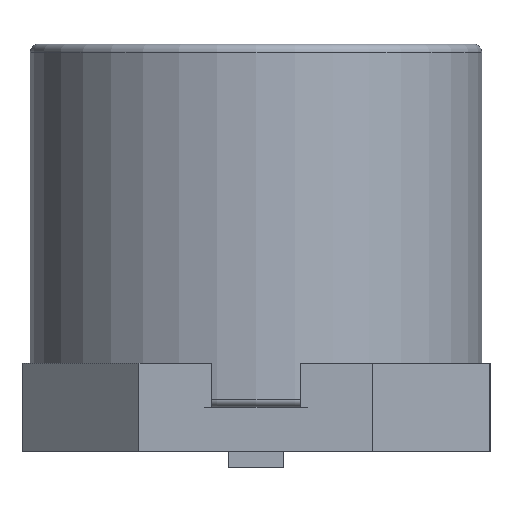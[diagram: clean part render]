
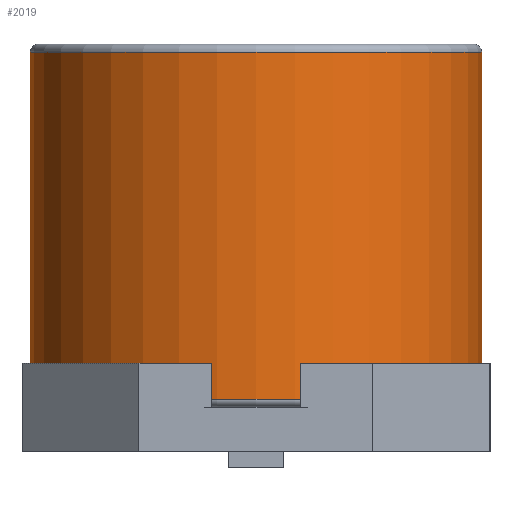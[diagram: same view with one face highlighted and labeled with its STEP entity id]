
A CAD part, left-side view. The second image highlights one B-rep face of the part: STEP entity #2019.
In plain terms, the highlighted cylindrical face has radius 4.1 mm (diameter 8.2 mm), a full revolution.
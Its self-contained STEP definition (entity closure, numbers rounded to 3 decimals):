
#2019 = ADVANCED_FACE('',(#2020),#2034,.T.);
#2020 = FACE_BOUND('',#2021,.T.);
#2021 = EDGE_LOOP('',(#2022,#2052,#2079,#2080));
#2022 = ORIENTED_EDGE('',*,*,#2023,.T.);
#2023 = EDGE_CURVE('',#2024,#2026,#2028,.T.);
#2024 = VERTEX_POINT('',#2025);
#2025 = CARTESIAN_POINT('',(4.1,0.,1.25));
#2026 = VERTEX_POINT('',#2027);
#2027 = CARTESIAN_POINT('',(4.1,0.,7.55));
#2028 = SEAM_CURVE('',#2029,(#2033,#2045),.PCURVE_S1.);
#2029 = LINE('',#2030,#2031);
#2030 = CARTESIAN_POINT('',(4.1,0.,1.1));
#2031 = VECTOR('',#2032,1.);
#2032 = DIRECTION('',(0.,0.,1.));
#2033 = PCURVE('',#2034,#2039);
#2034 = CYLINDRICAL_SURFACE('',#2035,4.1);
#2035 = AXIS2_PLACEMENT_3D('',#2036,#2037,#2038);
#2036 = CARTESIAN_POINT('',(0.,0.,1.1));
#2037 = DIRECTION('',(0.,0.,1.));
#2038 = DIRECTION('',(1.,0.,0.));
#2039 = DEFINITIONAL_REPRESENTATION('',(#2040),#2044);
#2040 = LINE('',#2041,#2042);
#2041 = CARTESIAN_POINT('',(6.283,-0.));
#2042 = VECTOR('',#2043,1.);
#2043 = DIRECTION('',(0.,1.));
#2044 = ( GEOMETRIC_REPRESENTATION_CONTEXT(2) 
PARAMETRIC_REPRESENTATION_CONTEXT() REPRESENTATION_CONTEXT('2D SPACE',''
  ) );
#2045 = PCURVE('',#2034,#2046);
#2046 = DEFINITIONAL_REPRESENTATION('',(#2047),#2051);
#2047 = LINE('',#2048,#2049);
#2048 = CARTESIAN_POINT('',(0.,-0.));
#2049 = VECTOR('',#2050,1.);
#2050 = DIRECTION('',(0.,1.));
#2051 = ( GEOMETRIC_REPRESENTATION_CONTEXT(2) 
PARAMETRIC_REPRESENTATION_CONTEXT() REPRESENTATION_CONTEXT('2D SPACE',''
  ) );
#2052 = ORIENTED_EDGE('',*,*,#2053,.F.);
#2053 = EDGE_CURVE('',#2026,#2026,#2054,.T.);
#2054 = SURFACE_CURVE('',#2055,(#2060,#2067),.PCURVE_S1.);
#2055 = CIRCLE('',#2056,4.1);
#2056 = AXIS2_PLACEMENT_3D('',#2057,#2058,#2059);
#2057 = CARTESIAN_POINT('',(0.,0.,7.55));
#2058 = DIRECTION('',(0.,0.,1.));
#2059 = DIRECTION('',(1.,0.,-0.));
#2060 = PCURVE('',#2034,#2061);
#2061 = DEFINITIONAL_REPRESENTATION('',(#2062),#2066);
#2062 = LINE('',#2063,#2064);
#2063 = CARTESIAN_POINT('',(0.,6.45));
#2064 = VECTOR('',#2065,1.);
#2065 = DIRECTION('',(1.,0.));
#2066 = ( GEOMETRIC_REPRESENTATION_CONTEXT(2) 
PARAMETRIC_REPRESENTATION_CONTEXT() REPRESENTATION_CONTEXT('2D SPACE',''
  ) );
#2067 = PCURVE('',#2068,#2073);
#2068 = TOROIDAL_SURFACE('',#2069,3.95,0.15);
#2069 = AXIS2_PLACEMENT_3D('',#2070,#2071,#2072);
#2070 = CARTESIAN_POINT('',(0.,0.,7.55));
#2071 = DIRECTION('',(0.,0.,1.));
#2072 = DIRECTION('',(1.,0.,-0.));
#2073 = DEFINITIONAL_REPRESENTATION('',(#2074),#2078);
#2074 = LINE('',#2075,#2076);
#2075 = CARTESIAN_POINT('',(0.,0.));
#2076 = VECTOR('',#2077,1.);
#2077 = DIRECTION('',(1.,0.));
#2078 = ( GEOMETRIC_REPRESENTATION_CONTEXT(2) 
PARAMETRIC_REPRESENTATION_CONTEXT() REPRESENTATION_CONTEXT('2D SPACE',''
  ) );
#2079 = ORIENTED_EDGE('',*,*,#2023,.F.);
#2080 = ORIENTED_EDGE('',*,*,#2081,.T.);
#2081 = EDGE_CURVE('',#2024,#2024,#2082,.T.);
#2082 = SURFACE_CURVE('',#2083,(#2088,#2095),.PCURVE_S1.);
#2083 = CIRCLE('',#2084,4.1);
#2084 = AXIS2_PLACEMENT_3D('',#2085,#2086,#2087);
#2085 = CARTESIAN_POINT('',(0.,0.,1.25));
#2086 = DIRECTION('',(0.,0.,1.));
#2087 = DIRECTION('',(1.,0.,-0.));
#2088 = PCURVE('',#2034,#2089);
#2089 = DEFINITIONAL_REPRESENTATION('',(#2090),#2094);
#2090 = LINE('',#2091,#2092);
#2091 = CARTESIAN_POINT('',(0.,0.15));
#2092 = VECTOR('',#2093,1.);
#2093 = DIRECTION('',(1.,0.));
#2094 = ( GEOMETRIC_REPRESENTATION_CONTEXT(2) 
PARAMETRIC_REPRESENTATION_CONTEXT() REPRESENTATION_CONTEXT('2D SPACE',''
  ) );
#2095 = PCURVE('',#2096,#2101);
#2096 = TOROIDAL_SURFACE('',#2097,3.95,0.15);
#2097 = AXIS2_PLACEMENT_3D('',#2098,#2099,#2100);
#2098 = CARTESIAN_POINT('',(0.,0.,1.25));
#2099 = DIRECTION('',(-0.,-0.,-1.));
#2100 = DIRECTION('',(1.,0.,-0.));
#2101 = DEFINITIONAL_REPRESENTATION('',(#2102),#2106);
#2102 = LINE('',#2103,#2104);
#2103 = CARTESIAN_POINT('',(-0.,0.));
#2104 = VECTOR('',#2105,1.);
#2105 = DIRECTION('',(-1.,0.));
#2106 = ( GEOMETRIC_REPRESENTATION_CONTEXT(2) 
PARAMETRIC_REPRESENTATION_CONTEXT() REPRESENTATION_CONTEXT('2D SPACE',''
  ) );
